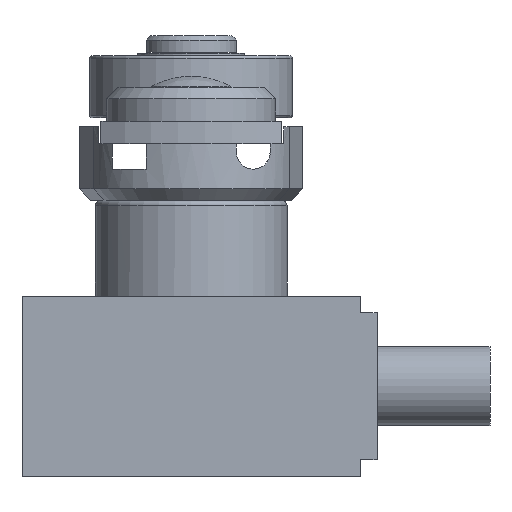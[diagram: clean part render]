
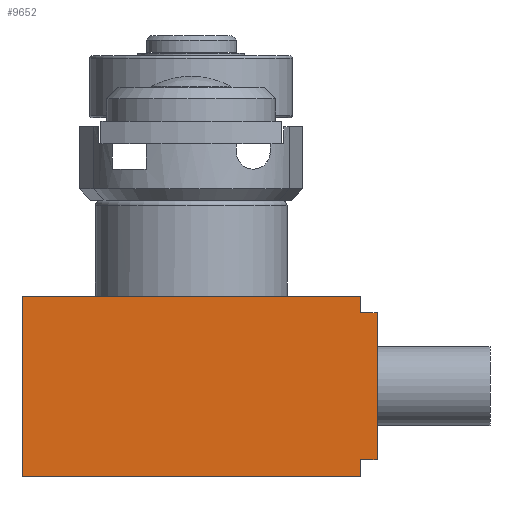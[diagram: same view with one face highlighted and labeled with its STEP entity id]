
A CAD part, front view. The second image highlights one B-rep face of the part: STEP entity #9652.
In plain terms, the highlighted planar face has unit normal (0, -1, 0) as drawn and (0, 0, -1) by its records, which use the part's own axes.
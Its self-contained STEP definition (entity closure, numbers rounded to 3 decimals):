
#303=PLANE('',#10611);
#1169=LINE('',#16119,#2113);
#1173=LINE('',#16130,#2117);
#1181=LINE('',#16145,#2125);
#1213=LINE('',#16248,#2157);
#1229=LINE('',#16293,#2173);
#1245=LINE('',#16326,#2189);
#1248=LINE('',#16331,#2192);
#1249=LINE('',#16333,#2193);
#2113=VECTOR('',#13253,13.);
#2117=VECTOR('',#13261,1.5);
#2125=VECTOR('',#13269,1.5);
#2157=VECTOR('',#13373,30.);
#2173=VECTOR('',#13417,16.);
#2189=VECTOR('',#13455,30.);
#2192=VECTOR('',#13462,1.5);
#2193=VECTOR('',#13465,1.5);
#2808=FACE_OUTER_BOUND('',#3358,.T.);
#3358=EDGE_LOOP('',(#8919,#8920,#8921,#8922,#8923,#8924,#8925,#8926));
#4680=VERTEX_POINT('',#16116);
#4681=VERTEX_POINT('',#16118);
#4683=VERTEX_POINT('',#16123);
#4685=VERTEX_POINT('',#16127);
#4686=VERTEX_POINT('',#16129);
#4693=VERTEX_POINT('',#16143);
#4728=VERTEX_POINT('',#16246);
#4743=VERTEX_POINT('',#16291);
#6038=EDGE_CURVE('',#4681,#4680,#1169,.T.);
#6043=EDGE_CURVE('',#4686,#4685,#1173,.T.);
#6051=EDGE_CURVE('',#4683,#4693,#1181,.T.);
#6100=EDGE_CURVE('',#4693,#4728,#1213,.T.);
#6122=EDGE_CURVE('',#4743,#4728,#1229,.T.);
#6139=EDGE_CURVE('',#4743,#4686,#1245,.T.);
#6142=EDGE_CURVE('',#4685,#4681,#1248,.T.);
#6143=EDGE_CURVE('',#4683,#4680,#1249,.T.);
#8919=ORIENTED_EDGE('',*,*,#6038,.T.);
#8920=ORIENTED_EDGE('',*,*,#6143,.F.);
#8921=ORIENTED_EDGE('',*,*,#6051,.T.);
#8922=ORIENTED_EDGE('',*,*,#6100,.T.);
#8923=ORIENTED_EDGE('',*,*,#6122,.F.);
#8924=ORIENTED_EDGE('',*,*,#6139,.T.);
#8925=ORIENTED_EDGE('',*,*,#6043,.T.);
#8926=ORIENTED_EDGE('',*,*,#6142,.T.);
#9652=ADVANCED_FACE('',(#2808),#303,.T.);
#10611=AXIS2_PLACEMENT_3D('',#16332,#13463,#13464);
#13253=DIRECTION('',(0.,-1.,0.));
#13261=DIRECTION('',(0.,-1.,0.));
#13269=DIRECTION('',(0.,-1.,0.));
#13373=DIRECTION('',(-1.,0.,0.));
#13417=DIRECTION('',(0.,-1.,0.));
#13455=DIRECTION('',(1.,0.,0.));
#13462=DIRECTION('',(1.,0.,0.));
#13463=DIRECTION('center_axis',(0.,0.,-1.));
#13464=DIRECTION('ref_axis',(-1.,0.,0.));
#13465=DIRECTION('',(1.,0.,0.));
#16116=CARTESIAN_POINT('',(16.5,-14.5,-40.));
#16118=CARTESIAN_POINT('',(16.5,-1.5,-40.));
#16119=CARTESIAN_POINT('',(16.5,-1.5,-40.));
#16123=CARTESIAN_POINT('',(15.,-14.5,-40.));
#16127=CARTESIAN_POINT('',(15.,-1.5,-40.));
#16129=CARTESIAN_POINT('',(15.,0.,-40.));
#16130=CARTESIAN_POINT('',(15.,0.,-40.));
#16143=CARTESIAN_POINT('',(15.,-16.,-40.));
#16145=CARTESIAN_POINT('',(15.,-14.5,-40.));
#16246=CARTESIAN_POINT('',(-15.,-16.,-40.));
#16248=CARTESIAN_POINT('',(15.,-16.,-40.));
#16291=CARTESIAN_POINT('',(-15.,0.,-40.));
#16293=CARTESIAN_POINT('',(-15.,0.,-40.));
#16326=CARTESIAN_POINT('',(-15.,0.,-40.));
#16331=CARTESIAN_POINT('',(15.,-1.5,-40.));
#16332=CARTESIAN_POINT('Origin',(15.,-1.5,-40.));
#16333=CARTESIAN_POINT('',(15.,-14.5,-40.));
